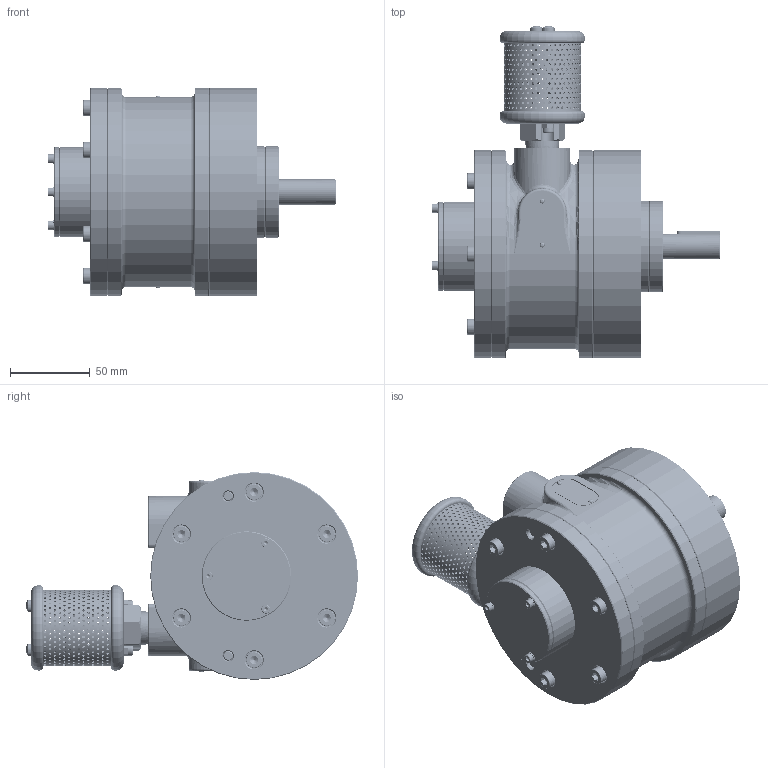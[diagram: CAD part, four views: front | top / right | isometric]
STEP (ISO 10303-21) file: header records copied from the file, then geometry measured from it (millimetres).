
FILE_DESCRIPTION (( 'STEP AP214' ), '1' );
FILE_NAME ('6VML-Face (Alu. End Plates)_23-04-26.STEP', '2026-04-24T06:28:56', ( '' ), ( '' ), 'SwSTEP 2.0', 'SolidWorks 2017', '' );
FILE_SCHEMA (( 'AUTOMOTIVE_DESIGN' ));
Length unit declared in the file: millimetre
Products named in the file (2): 6VML-Face (Alu. End Plates)_23-04-26
Bounding box: 180.25 x 207.72 x 130 mm (x, y, z)
Volume: 524662.6 mm3; surface area: 264550.7 mm2
Topology: 68 solids, 68 shells, 4689 faces, 12341 edges, 7747 vertices
Faces by surface type: cylinder 2471, cone 1296, plane 708, torus 168, bspline 28, sphere 18
Entity records: 240409 total; most frequent: CARTESIAN_POINT 75462, ORIENTED_EDGE 24502, DIRECTION 21568, EDGE_CURVE 12251, AXIS2_PLACEMENT_3D 8448, VERTEX_POINT 7743, EDGE_LOOP 6318, FACE_OUTER_BOUND 4689
